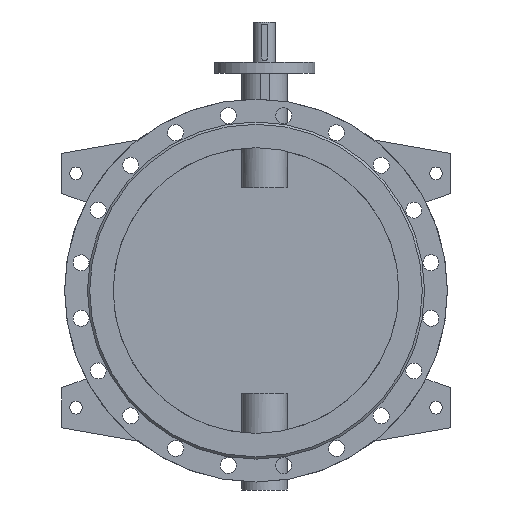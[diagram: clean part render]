
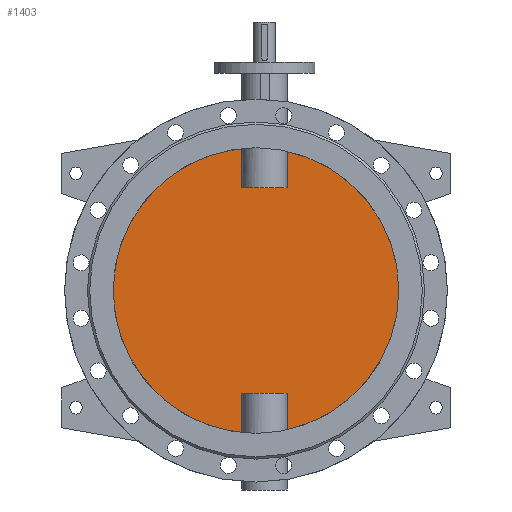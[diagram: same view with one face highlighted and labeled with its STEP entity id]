
A CAD part, front view. The second image highlights one B-rep face of the part: STEP entity #1403.
In plain terms, the highlighted planar face has unit normal (0, -1, 0).
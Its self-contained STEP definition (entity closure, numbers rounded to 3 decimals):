
#1403=ADVANCED_FACE('',(#2957),#2959,.F.);
#2957=FACE_BOUND('',#2958,.T.);
#2958=EDGE_LOOP('',(#3785,#3786,#3787,#3788,#3789,#3790,#3791,#3792));
#2959=PLANE('',#2960);
#2960=AXIS2_PLACEMENT_3D('',#2961,#2962,#2963);
#2961=CARTESIAN_POINT('',(0.,-5.,0.));
#2962=DIRECTION('',(0.,1.,0.));
#2963=DIRECTION('',(1.,0.,0.));
#3785=ORIENTED_EDGE('',*,*,#4199,.T.);
#3786=ORIENTED_EDGE('',*,*,#4215,.T.);
#3787=ORIENTED_EDGE('',*,*,#4216,.T.);
#3788=ORIENTED_EDGE('',*,*,#4217,.T.);
#3789=ORIENTED_EDGE('',*,*,#4201,.T.);
#3790=ORIENTED_EDGE('',*,*,#4218,.T.);
#3791=ORIENTED_EDGE('',*,*,#4219,.T.);
#3792=ORIENTED_EDGE('',*,*,#4220,.T.);
#4199=EDGE_CURVE('',#4863,#4864,#4865,.F.);
#4201=EDGE_CURVE('',#4868,#4866,#4869,.F.);
#4215=EDGE_CURVE('',#4864,#4895,#4896,.T.);
#4216=EDGE_CURVE('',#4895,#4897,#4898,.F.);
#4217=EDGE_CURVE('',#4897,#4868,#4899,.F.);
#4218=EDGE_CURVE('',#4866,#4900,#4901,.F.);
#4219=EDGE_CURVE('',#4900,#4902,#4903,.F.);
#4220=EDGE_CURVE('',#4902,#4863,#4904,.T.);
#4863=VERTEX_POINT('',#7106);
#4864=VERTEX_POINT('',#7107);
#4865=CIRCLE('',#7108,250.);
#4866=VERTEX_POINT('',#7112);
#4868=VERTEX_POINT('',#7202);
#4869=CIRCLE('',#7203,250.);
#4895=VERTEX_POINT('',#7590);
#4896=LINE('',#7591,#7592);
#4897=VERTEX_POINT('',#7594);
#4898=LINE('',#7595,#7596);
#4899=LINE('',#7598,#7599);
#4900=VERTEX_POINT('',#7601);
#4901=LINE('',#7602,#7603);
#4902=VERTEX_POINT('',#7605);
#4903=LINE('',#7606,#7607);
#4904=LINE('',#7609,#7610);
#7106=CARTESIAN_POINT('',(54.686,-5.,-243.946));
#7107=CARTESIAN_POINT('',(54.686,-5.,243.946));
#7108=AXIS2_PLACEMENT_3D('',#7109,#7110,#7111);
#7109=CARTESIAN_POINT('',(0.,-5.,0.));
#7110=DIRECTION('',(0.,1.,0.));
#7111=DIRECTION('',(0.219,0.,0.976));
#7112=CARTESIAN_POINT('',(-24.686,-5.,-248.778));
#7202=CARTESIAN_POINT('',(-24.686,-5.,248.778));
#7203=AXIS2_PLACEMENT_3D('',#7204,#7205,#7206);
#7204=CARTESIAN_POINT('',(0.,-5.,0.));
#7205=DIRECTION('',(0.,1.,0.));
#7206=DIRECTION('',(-0.099,0.,-0.995));
#7590=CARTESIAN_POINT('',(54.686,-5.,180.));
#7591=CARTESIAN_POINT('',(54.686,-5.,243.946));
#7592=VECTOR('',#7593,1.);
#7593=DIRECTION('',(0.,0.,-1.));
#7594=CARTESIAN_POINT('',(-24.686,-5.,180.));
#7595=CARTESIAN_POINT('',(-24.686,-5.,180.));
#7596=VECTOR('',#7597,1.);
#7597=DIRECTION('',(1.,0.,0.));
#7598=CARTESIAN_POINT('',(-24.686,-5.,248.778));
#7599=VECTOR('',#7600,1.);
#7600=DIRECTION('',(0.,0.,-1.));
#7601=CARTESIAN_POINT('',(-24.686,-5.,-180.));
#7602=CARTESIAN_POINT('',(-24.686,-5.,-180.));
#7603=VECTOR('',#7604,1.);
#7604=DIRECTION('',(0.,0.,-1.));
#7605=CARTESIAN_POINT('',(54.686,-5.,-180.));
#7606=CARTESIAN_POINT('',(54.686,-5.,-180.));
#7607=VECTOR('',#7608,1.);
#7608=DIRECTION('',(-1.,0.,0.));
#7609=CARTESIAN_POINT('',(54.686,-5.,-180.));
#7610=VECTOR('',#7611,1.);
#7611=DIRECTION('',(0.,0.,-1.));
